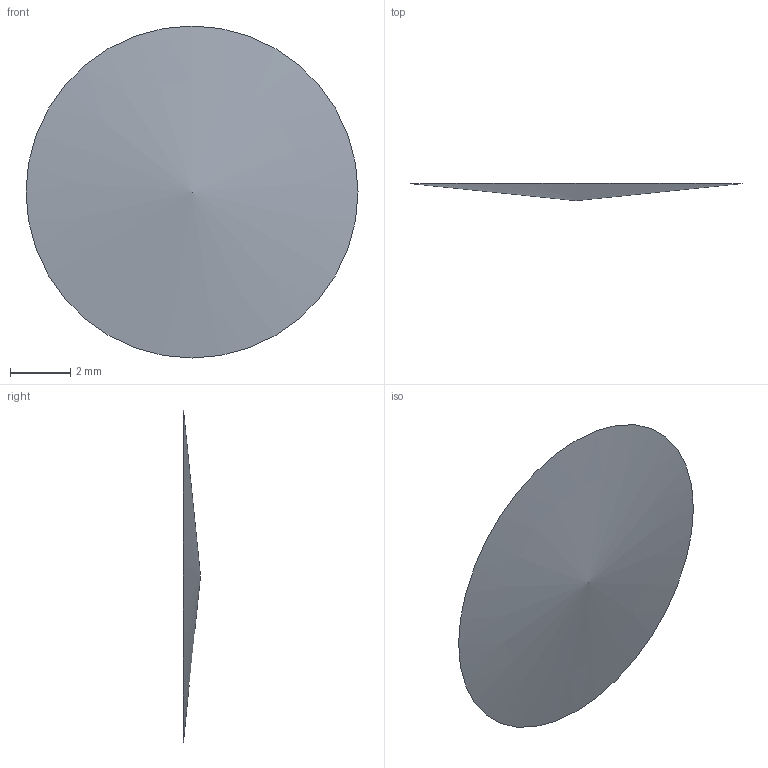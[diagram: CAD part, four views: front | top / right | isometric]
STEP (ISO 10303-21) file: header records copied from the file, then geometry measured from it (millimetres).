
FILE_DESCRIPTION(/* description */ ('STEP AP242 Edition 2','CAx-IF Rec.Pracs.---Representation and Presentation of Product Manufacturing Information (PMI)---4.0---2014-10-13','CAx-IF Rec.Pracs.---3D Tessellated Geometry---0.4---2014-09-14','2;1','CAx-IF Rec.Pracs.---User Defined Attributes---1.5---2016-08-15'),/* implementation_level */ '2;1');
FILE_NAME(/* name */ 'Assembly 1 (1)',/* time_stamp */ '2026-04-02T09:55:05Z',/* author */ (''),/* organization */ (''),/* preprocessor_version */ 'ST-DEVELOPER v20',/* originating_system */ 'ONSHAPE BY PTC INC, 1.212',/* authorisation */ ' ');
FILE_SCHEMA (('AP242_MANAGED_MODEL_BASED_3D_ENGINEERING_MIM_LF { 1 0 10303 442 3 1 4 }'));
Length unit declared in the file: metre
Products named in the file (1): Surface 1
Bounding box: 11.01 x 0.56 x 11.01 mm (x, y, z)
Volume: 17.9 mm3; surface area: 191.1 mm2
Topology: 1 solids, 1 shells, 2 faces, 3 edges, 2 vertices
Faces by surface type: plane 1, cone 1
Entity records: 51 total; most frequent: DIRECTION 8, CARTESIAN_POINT 6, AXIS2_PLACEMENT_3D 4, FACE_BOUND 3, ORIENTED_EDGE 2, VERTEX_POINT 2, EDGE_LOOP 2, ADVANCED_FACE 2
